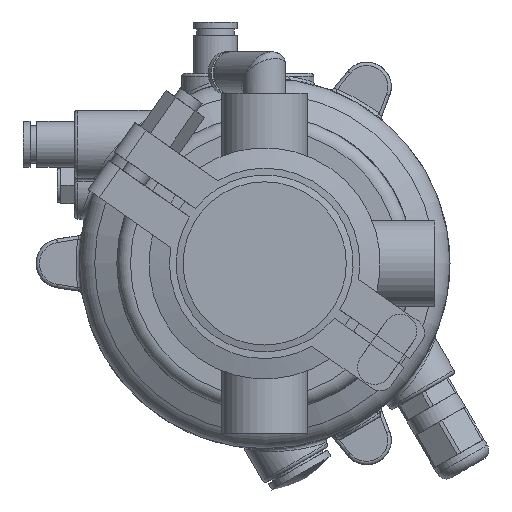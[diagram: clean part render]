
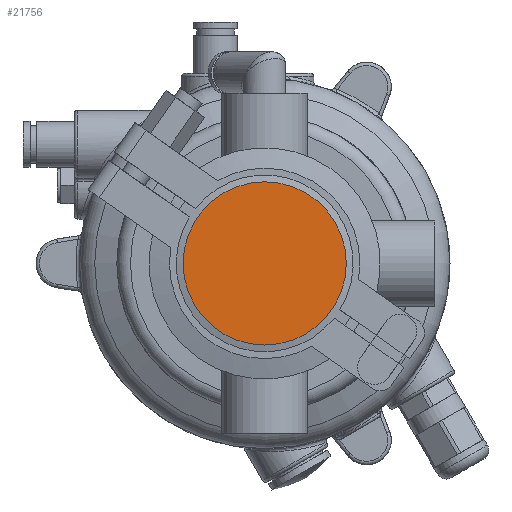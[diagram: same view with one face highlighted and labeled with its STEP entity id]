
A CAD part, front view. The second image highlights one B-rep face of the part: STEP entity #21756.
In plain terms, the highlighted planar face has unit normal (0, -1, 0).
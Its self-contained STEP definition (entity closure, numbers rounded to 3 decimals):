
#443 = CIRCLE ( 'NONE', #48162, 24. ) ;
#4261 = ORIENTED_EDGE ( 'NONE', *, *, #4415, .F. ) ;
#4415 = EDGE_CURVE ( 'NONE', #31249, #31249, #443, .T. ) ;
#9038 = DIRECTION ( 'NONE',  ( 0., 1., 0. ) ) ;
#9213 = FACE_OUTER_BOUND ( 'NONE', #38250, .T. ) ;
#12939 = CARTESIAN_POINT ( 'NONE',  ( 0., 0., 24. ) ) ;
#21756 = ADVANCED_FACE ( 'NONE', ( #9213 ), #27801, .T. ) ;
#22947 = CARTESIAN_POINT ( 'NONE',  ( -24., 0., 0. ) ) ;
#27801 = PLANE ( 'NONE',  #32891 ) ;
#31249 = VERTEX_POINT ( 'NONE', #12939 ) ;
#31593 = DIRECTION ( 'NONE',  ( 0., 0., 1. ) ) ;
#32090 = DIRECTION ( 'NONE',  ( 0., -1., 0. ) ) ;
#32891 = AXIS2_PLACEMENT_3D ( 'NONE', #22947, #32090, #47047 ) ;
#38250 = EDGE_LOOP ( 'NONE', ( #4261 ) ) ;
#47047 = DIRECTION ( 'NONE',  ( 0., 0., -1. ) ) ;
#48162 = AXIS2_PLACEMENT_3D ( 'NONE', #50879, #9038, #31593 ) ;
#50879 = CARTESIAN_POINT ( 'NONE',  ( 0., 0., 0. ) ) ;
